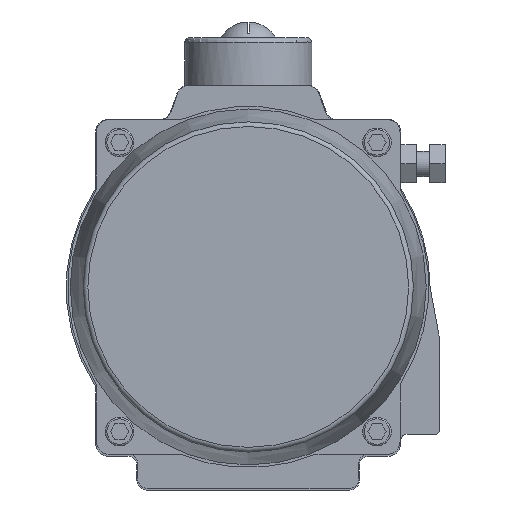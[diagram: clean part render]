
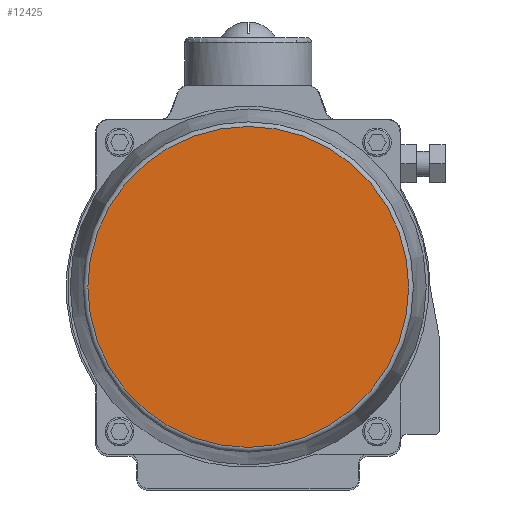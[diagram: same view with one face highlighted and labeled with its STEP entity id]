
A CAD part, front view. The second image highlights one B-rep face of the part: STEP entity #12425.
In plain terms, the highlighted planar face has unit normal (0, -1, 0).
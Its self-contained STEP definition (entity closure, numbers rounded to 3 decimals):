
#12425 = ADVANCED_FACE('',(#12426),#12439,.F.);
#12426 = FACE_BOUND('',#12427,.T.);
#12427 = EDGE_LOOP('',(#12428));
#12428 = ORIENTED_EDGE('',*,*,#12429,.T.);
#12429 = EDGE_CURVE('',#12430,#12430,#12432,.T.);
#12430 = VERTEX_POINT('',#12431);
#12431 = CARTESIAN_POINT('',(2747.876,542.78,
    -65.785));
#12432 = SURFACE_CURVE('',#12433,(#12438,#12454),.PCURVE_S1.);
#12433 = CIRCLE('',#12434,100.947);
#12434 = AXIS2_PLACEMENT_3D('',#12435,#12436,#12437);
#12435 = CARTESIAN_POINT('',(2747.876,542.78,
    -166.732));
#12436 = DIRECTION('',(0.,-1.,0.));
#12437 = DIRECTION('',(1.,0.,0.));
#12438 = PCURVE('',#12439,#12444);
#12439 = PLANE('',#12440);
#12440 = AXIS2_PLACEMENT_3D('',#12441,#12442,#12443);
#12441 = CARTESIAN_POINT('',(2747.876,542.78,
    -65.785));
#12442 = DIRECTION('',(0.,1.,0.));
#12443 = DIRECTION('',(1.,0.,0.));
#12444 = DEFINITIONAL_REPRESENTATION('',(#12445),#12453);
#12445 = ( BOUNDED_CURVE() B_SPLINE_CURVE(2,(#12446,#12447,#12448,#12449
    ,#12450,#12451,#12452),.UNSPECIFIED.,.T.,.F.) 
B_SPLINE_CURVE_WITH_KNOTS((1,2,2,2,2,1),(-2.094,0.,
    2.094,4.189,6.283,8.378),
.UNSPECIFIED.) CURVE() GEOMETRIC_REPRESENTATION_ITEM() 
RATIONAL_B_SPLINE_CURVE((1.,0.5,1.,0.5,1.,0.5,1.)) REPRESENTATION_ITEM(
  '') );
#12446 = CARTESIAN_POINT('',(100.947,100.947));
#12447 = CARTESIAN_POINT('',(100.947,-73.898));
#12448 = CARTESIAN_POINT('',(-50.473,13.524));
#12449 = CARTESIAN_POINT('',(-201.894,100.947));
#12450 = CARTESIAN_POINT('',(-50.473,188.369));
#12451 = CARTESIAN_POINT('',(100.947,275.792));
#12452 = CARTESIAN_POINT('',(100.947,100.947));
#12453 = ( GEOMETRIC_REPRESENTATION_CONTEXT(2) 
PARAMETRIC_REPRESENTATION_CONTEXT() REPRESENTATION_CONTEXT('2D SPACE',''
  ) );
#12454 = PCURVE('',#12455,#12460);
#12455 = TOROIDAL_SURFACE('',#12456,100.947,3.);
#12456 = AXIS2_PLACEMENT_3D('',#12457,#12458,#12459);
#12457 = CARTESIAN_POINT('',(2747.876,545.78,
    -166.732));
#12458 = DIRECTION('',(0.,1.,0.));
#12459 = DIRECTION('',(1.,0.,0.));
#12460 = DEFINITIONAL_REPRESENTATION('',(#12461),#12465);
#12461 = LINE('',#12462,#12463);
#12462 = CARTESIAN_POINT('',(12.566,4.712));
#12463 = VECTOR('',#12464,1.);
#12464 = DIRECTION('',(-1.,0.));
#12465 = ( GEOMETRIC_REPRESENTATION_CONTEXT(2) 
PARAMETRIC_REPRESENTATION_CONTEXT() REPRESENTATION_CONTEXT('2D SPACE',''
  ) );
